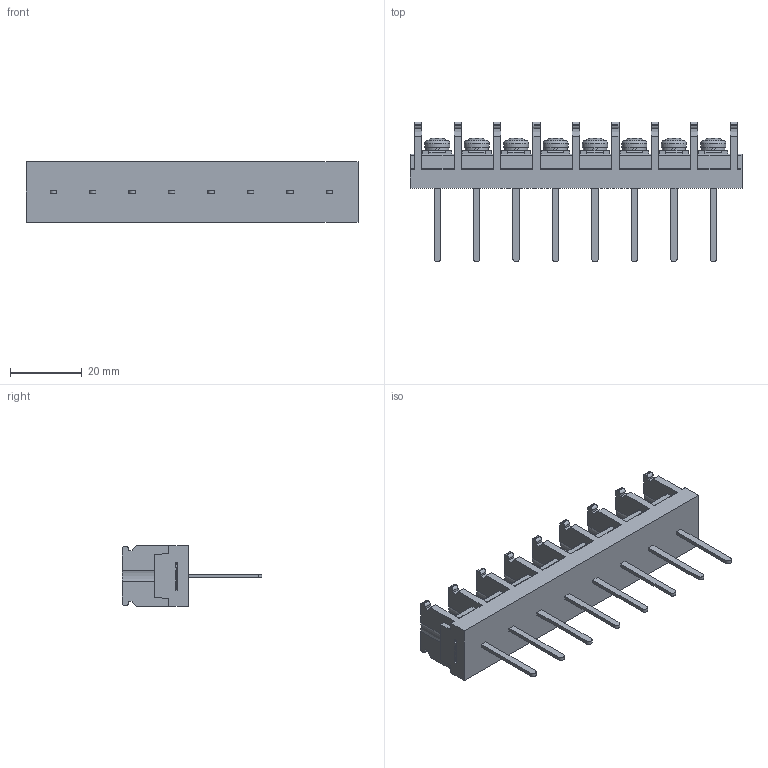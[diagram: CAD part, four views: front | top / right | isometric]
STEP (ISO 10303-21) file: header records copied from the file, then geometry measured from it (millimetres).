
FILE_DESCRIPTION(/* description */ ('Alibre Inc.'),/* implementation_level */ '2;1');
FILE_NAME(/* name */ 'export0',/* time_stamp */ '2015-10-20T07:49:32+09:00',/* author */ (''),/* organization */ (''),/* preprocessor_version */ 'ST-DEVELOPER v14',/* originating_system */ 'Alibre',/* authorisation */ '');
FILE_SCHEMA (('CONFIG_CONTROL_DESIGN'));
Length unit declared in the file: centimetre
Products named in the file (1): ID_1
Bounding box: 92.6 x 39 x 17 mm (x, y, z)
Volume: 17698.1 mm3; surface area: 10600.1 mm2
Topology: 1 solids, 1 shells, 1008 faces, 2802 edges, 1860 vertices
Faces by surface type: plane 706, cylinder 142, bspline 104, cone 32, torus 16, sphere 8
Full cylindrical faces by diameter (mm): 4 x8, 6.5 x8, 7 x8
Entity records: 31278 total; most frequent: CARTESIAN_POINT 6754, ORIENTED_EDGE 5492, DIRECTION 4066, EDGE_CURVE 2746, VECTOR 1938, LINE 1938, VERTEX_POINT 1836, AXIS2_PLACEMENT_3D 1412
